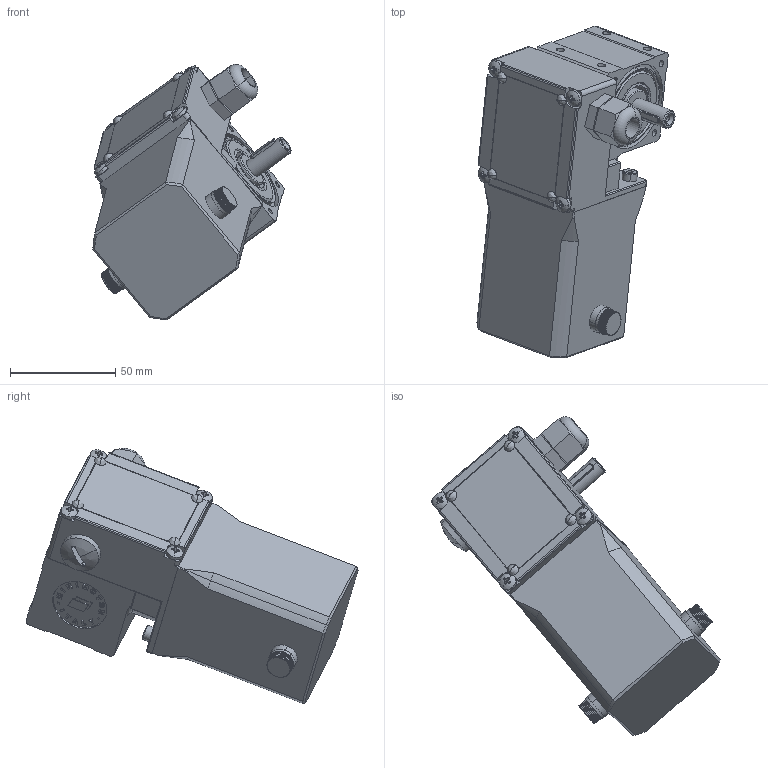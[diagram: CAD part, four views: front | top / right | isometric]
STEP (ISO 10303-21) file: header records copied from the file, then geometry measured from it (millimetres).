
FILE_DESCRIPTION((''),'2;1');
FILE_NAME('C:\Documents and Settings\marco\Desktop\DATI\DATI MARCO\Disegni inventor\STEP\BC2000_MP\BC2000_MP.stp','2003-08-26T16:05:17',('Administrator'),(''),'Autodesk Inventor 7','Autodesk Inventor 7','');
FILE_SCHEMA(('AUTOMOTIVE_DESIGN { 1 0 10303 214 1 1 1 1 }'));
Length unit declared in the file: millimetre
Products named in the file (1): BC2000_MP
Bounding box: 94.12 x 157.79 x 121.31 mm (x, y, z)
Volume: 224022.2 mm3; surface area: 89616.1 mm2
Topology: 21 solids, 21 shells, 1819 faces, 4992 edges, 3212 vertices
Faces by surface type: plane 1121, cylinder 296, bspline 202, cone 158, torus 34, sphere 8
Entity records: 62551 total; most frequent: CARTESIAN_POINT 16731, ORIENTED_EDGE 9868, DIRECTION 9373, EDGE_CURVE 4934, VERTEX_POINT 3212, AXIS2_PLACEMENT_3D 3128, VECTOR 3117, LINE 3117
